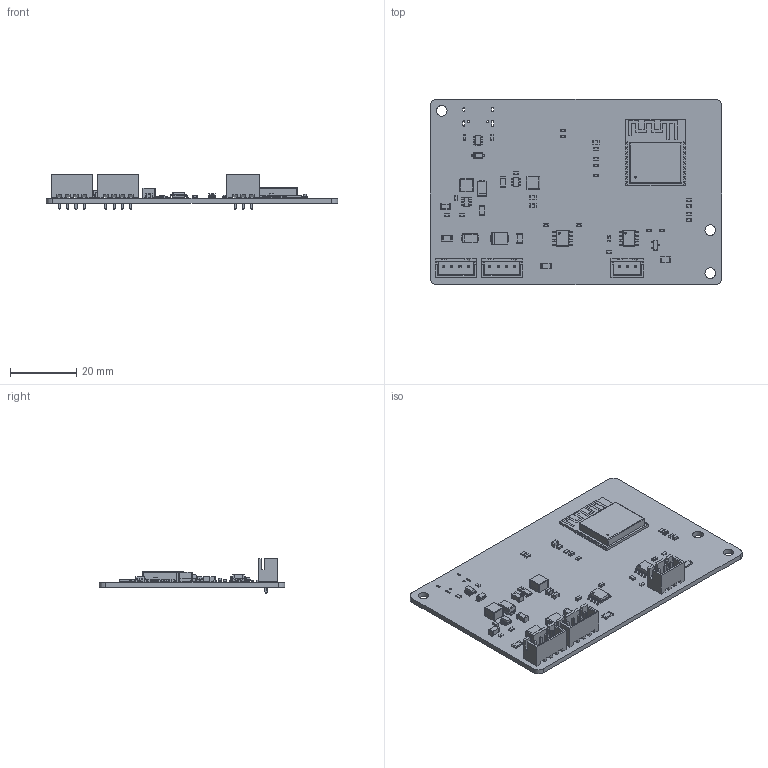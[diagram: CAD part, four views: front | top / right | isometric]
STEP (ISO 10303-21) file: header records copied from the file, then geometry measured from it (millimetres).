
FILE_DESCRIPTION(('KiCad electronic assembly'),'2;1');
FILE_NAME('AP_Gate.step','2026-10-10T04:33:37',('Pcbnew'),('Kicad'), 'Open CASCADE STEP processor 7.6','KiCad to STEP converter','Unknown' );
FILE_SCHEMA(('AUTOMOTIVE_DESIGN { 1 0 10303 214 1 1 1 1 }'));
Length unit declared in the file: millimetre
Products named in the file (20): AP_Gate 1; R_0603_1608Metric; LED_0603_1608Metric; C_0603_1608Metric; R_1206_3216Metric; C_1206_3216Metric; D_SMB; C_0805_2012Metric; SOIC-8_3.9x4.9mm_P1.27mm; JST_XH_B3B-XH-A_1x03_P2.50mm_Vertical; L_Changjiang_FNR4030S; JST_XH_B4B-XH-A_1x04_P2.50mm_Vertical; SOT-23-6; Fuse_1206_3216Metric; D_SMA; D_SOD-123; SOT-23; ESP32-C3-WROOM-02; TSOT-23-6; AP_Gate_PCB
Assembly tree (49 placements, depth 2):
  AP_Gate 1
    R_0603_1608Metric  x13
    LED_0603_1608Metric  x2
    C_0603_1608Metric  x7
    R_1206_3216Metric  x2
    C_1206_3216Metric  x4
    D_SMB
    C_0805_2012Metric  x3
    SOIC-8_3.9x4.9mm_P1.27mm  x2
    JST_XH_B3B-XH-A_1x03_P2.50mm_Vertical
    L_Changjiang_FNR4030S  x2
    JST_XH_B4B-XH-A_1x04_P2.50mm_Vertical  x2
    SOT-23-6  x2
    Fuse_1206_3216Metric
    D_SMA  x2
    D_SOD-123
    SOT-23
    ESP32-C3-WROOM-02
    TSOT-23-6
    AP_Gate_PCB
Bounding box: 88 x 56 x 10.4 mm (x, y, z)
Volume: 9165.8 mm3; surface area: 14491.5 mm2
Topology: 78 solids, 78 shells, 2685 faces, 6878 edges, 4396 vertices
Faces by surface type: plane 1867, cylinder 569, bspline 237, sphere 12
Full cylindrical faces by diameter (mm): 0.3 x4, 0.5 x1, 0.6 x2, 0.65 x2, 0.95 x11, 3.2 x3
Entity records: 44586 total; most frequent: CARTESIAN_POINT 8489, ORIENTED_EDGE 7594, DIRECTION 6865, EDGE_CURVE 3797, LINE 3089, VECTOR 3089, VERTEX_POINT 2420, AXIS2_PLACEMENT_3D 1888
